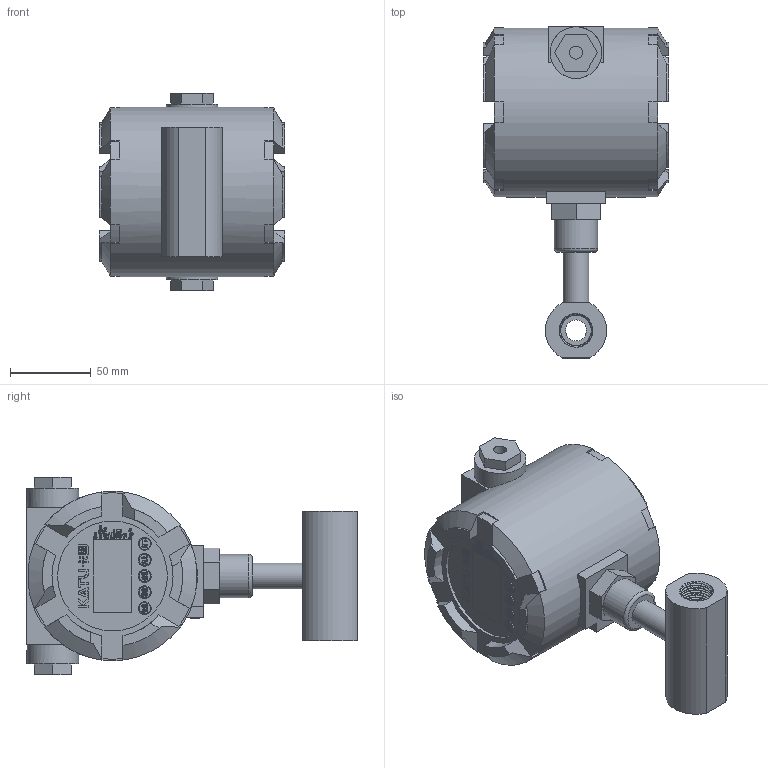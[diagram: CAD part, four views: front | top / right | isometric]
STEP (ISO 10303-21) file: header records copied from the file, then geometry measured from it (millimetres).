
FILE_DESCRIPTION( (''), '2;1');
FILE_NAME( 'QTKC_DN12_female-thread_Ex.step', '2024-10-14T14:34:03+08:00', (''), (''), '', '', '');
FILE_SCHEMA (('AUTOMOTIVE_DESIGN { 1 0 10303 214 3 1 1 1 }'));
Length unit declared in the file: millimetre
Products named in the file (1): QTKC DN12_female-thread_Ex
Bounding box: 115 x 205.5 x 122.4 mm (x, y, z)
Volume: 1012631.8 mm3; surface area: 97047.6 mm2
Topology: 4 solids, 4 shells, 1329 faces, 3640 edges, 2422 vertices
Faces by surface type: plane 724, extrusion 504, cylinder 73, cone 16, torus 6, bspline 6
Full cylindrical faces by diameter (mm): 3.3 x1, 8 x2, 13 x1, 16 x1, 17 x1, 18.5 x1, 20 x2, 21 x2, 27 x1, 32 x2, 68 x1, 105 x1
Entity records: 51341 total; most frequent: CARTESIAN_POINT 19770, ORIENTED_EDGE 7196, DIRECTION 4817, EDGE_CURVE 3598, VECTOR 2789, VERTEX_POINT 2406, LINE 2285, B_SPLINE_CURVE_WITH_KNOTS 1623
